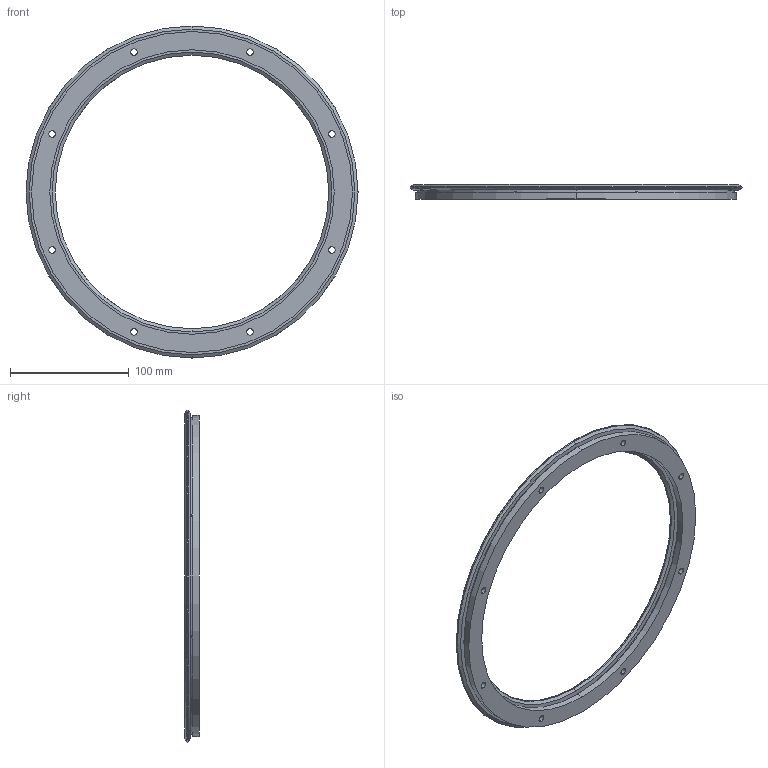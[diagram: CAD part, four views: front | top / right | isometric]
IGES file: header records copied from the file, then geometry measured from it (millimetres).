
Start section: 3D InterOp IGES (v. 2020 1.0.1), Spatial Corp. Copyright (c) 1999-2017.
Global section: file name: r25_255_r360.igs; native system: Spatial Corp.; preprocessor: 3D InterOp ACIS/IGES; author: TraceParts; organization: TraceParts S.A.; date: 20220624.070003; units: millimetre
Bounding box: 279.61 x 12.25 x 279.61 mm (x, y, z)
Surface area: 63040.9 mm2 (no closed solid volume)
Topology: 0 solids, 0 shells, 70 faces, 312 edges, 312 vertices
Faces by surface type: revolution 56, extrusion 14
